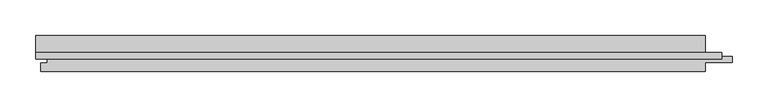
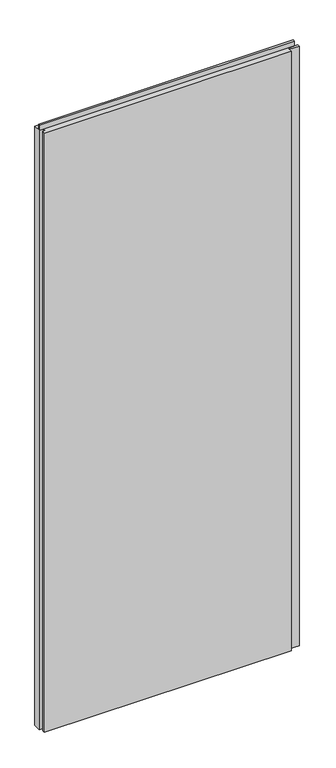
"""IFC4 building model written with IfcOpenShell, lengths in millimetres: plate geometry, Trimo_Qbiss Screen_Normal Panel-VERTICAL : HR - B."""

from ifc_helpers import new_model, si_unit, frame, origin, place, context, project, spatial, polyline, outline, extrude, source, transform, mapped, element, save


def plate_6dac5c35(model_context):
    return source(origin(), model_context, "Body", "SweptSolid", [
        extrude(outline(polyline([(455.0, 97.0), (455.0, 102.6), (476.0, 102.6), (476.0, 97.0), (455.0, 97.0)])), frame((0.0, 0.0, 12.5), z_axis=(0.0, 0.0, 1.0), x_axis=(1.0, 0.0, 0.0)), (0.0, 0.0, 1.0), 2375.0),
        extrude(outline(polyline([(-477.0, 93.9), (-477.0, 102.6), (477.0, 102.6), (477.0, 93.9), (-477.0, 93.9)])), frame((0.0, 0.0, 2390.5), z_axis=(0.0, 0.0, 1.0), x_axis=(1.0, 0.0, 0.0)), (0.0, 0.0, 1.0), 19.0),
        extrude(outline(polyline([(454.0, 97.0), (491.5, 97.0), (491.5, 89.0), (454.0, 89.0), (454.0, 76.0), (-470.0, 76.0), (-470.0, 88.0), (-461.5, 88.0), (-461.5, 98.0), (-477.0, 98.0), (-477.0, 126.0), (454.0, 126.0), (454.0, 97.0)])), frame((0.0, 0.0, 12.5), z_axis=(0.0, 0.0, 1.0), x_axis=(1.0, 0.0, 0.0)), (0.0, 0.0, 1.0), 2375.0),
    ])


if __name__ == "__main__":
    model = new_model("IFC4")
    model_context = context("Model", 3, world=origin())
    ifc_project = project(units=[si_unit("LENGTHUNIT", "METRE", prefix="MILLI")], contexts=[model_context])
    site = spatial("IfcSite", under=ifc_project)
    building = spatial("IfcBuilding", under=site)
    placement = place(None, origin())
    plate_shape = plate_6dac5c35(model_context)
    element("IfcPlate", 1, ObjectType="Trimo_Qbiss Screen_Normal Panel-VERTICAL : HR - B", at=placement, inside=building, context=model_context, shape_type="MappedRepresentation", body=[
        mapped(plate_shape, transform((0.0, 0.0, 0.0), x_axis=(1.0, 0.0, 0.0), y_axis=(0.0, 1.0, 0.0), z_axis=(0.0, 0.0, 1.0))),
    ])
    save(model, "model.ifc")
